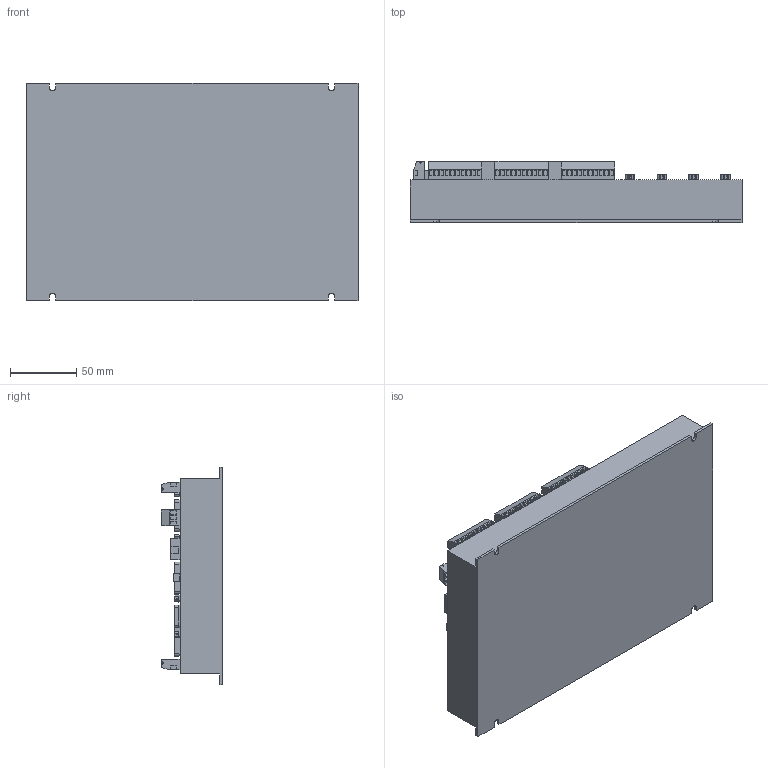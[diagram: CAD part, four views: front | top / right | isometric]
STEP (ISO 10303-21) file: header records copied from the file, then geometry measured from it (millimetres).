
FILE_DESCRIPTION (( 'STEP AP214' ), '1' );
FILE_NAME ('ZMC412.STEP', '2018-08-24T09:53:38', ( 'Microsoft' ), ( ' ' ), 'SwSTEP 2.0', 'SolidWorks 2014', '' );
FILE_SCHEMA (( 'AUTOMOTIVE_DESIGN' ));
Length unit declared in the file: millimetre
Products named in the file (12): 傷赽-苤-10; 腑; U攫; 9渀-2齬-鼠芛; 26渀-3齬-譫芛; ZMC412-俋褲; ZMC412; 傷赽-苤-8; 厙諳-酗; 三连灯; 傷赽-苤-5; 傷赽-苤-3
Assembly tree (29 placements, depth 3):
  ZMC412
    ZMC412-俋褲
    26渀-3齬-譫芛  x12
    9渀-2齬-鼠芛
    U攫
    腑
    傷赽-苤-10  x4
    傷赽-苤-3  x2
    傷赽-苤-5
    三连灯
      腑  x3
    厙諳-酗
    傷赽-苤-8
Bounding box: 250 x 46 x 163.5 mm (x, y, z)
Volume: 1219895.6 mm3; surface area: 137810.6 mm2
Topology: 103 solids, 103 shells, 3609 faces, 8814 edges, 5872 vertices
Faces by surface type: plane 2317, cylinder 896, bspline 388, sphere 8
Entity records: 77528 total; most frequent: CARTESIAN_POINT 28480, ORIENTED_EDGE 10366, DIRECTION 8007, EDGE_CURVE 5183, VECTOR 3995, LINE 3995, VERTEX_POINT 3455, EDGE_LOOP 2058
